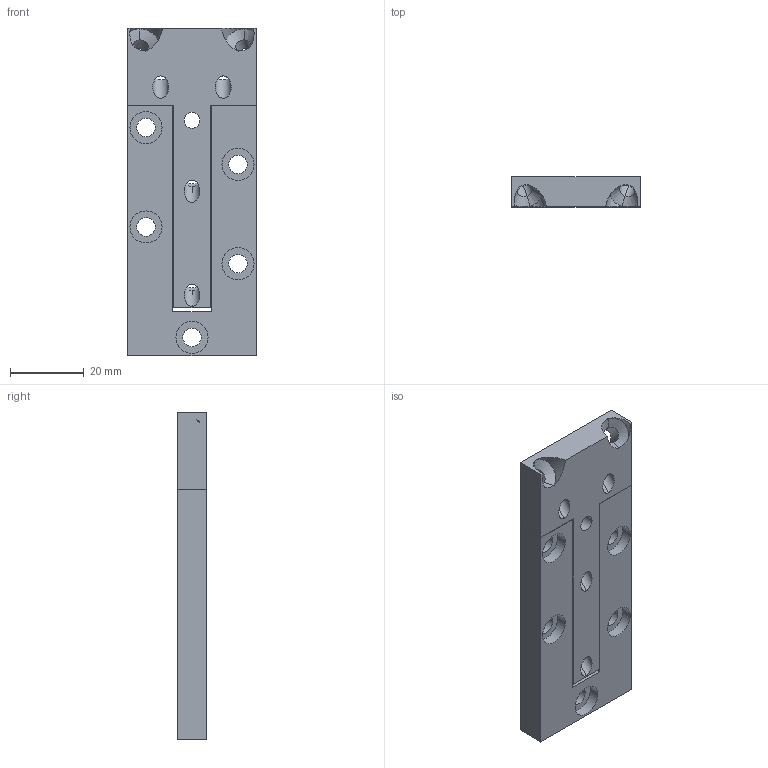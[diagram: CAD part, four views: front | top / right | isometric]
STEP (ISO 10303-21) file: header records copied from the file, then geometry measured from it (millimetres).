
FILE_DESCRIPTION(('STEP AP242'),'1');
FILE_NAME('OPO_86.880.41_volu_schn_3d.stp','2026-04-30T13:30:51',(' '),(' '),'Spatial InterOp 3D',' ',' ');
FILE_SCHEMA(('AP242_MANAGED_MODEL_BASED_3D_ENGINEERING_MIM_LF {1 0 10303 442 1 1 4}'));
Length unit declared in the file: millimetre
Products named in the file (1): 1
Bounding box: 35 x 8 x 89 mm (x, y, z)
Volume: 20520.9 mm3; surface area: 12545.9 mm2
Topology: 2 solids, 2 shells, 139 faces, 772 edges, 1020 vertices
Faces by surface type: cylinder 68, plane 57, cone 14
Entity records: 10793 total; most frequent: CARTESIAN_POINT 1445, DIRECTION 1308, ORIENTED_EDGE 728, STYLED_ITEM 549, PRESENTATION_STYLE_ASSIGNMENT 549, COLOUR_RGB 549, LINE 484, VECTOR 484
